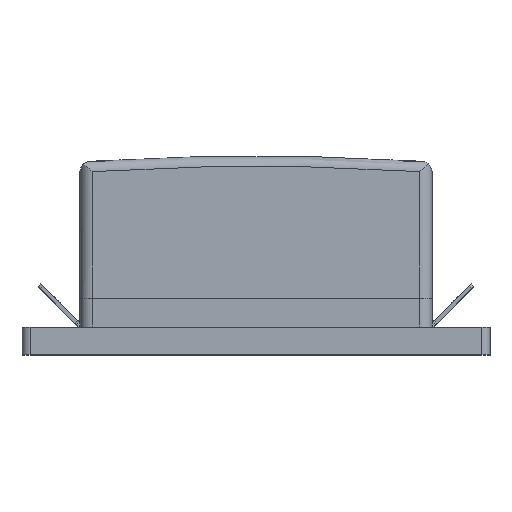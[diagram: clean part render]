
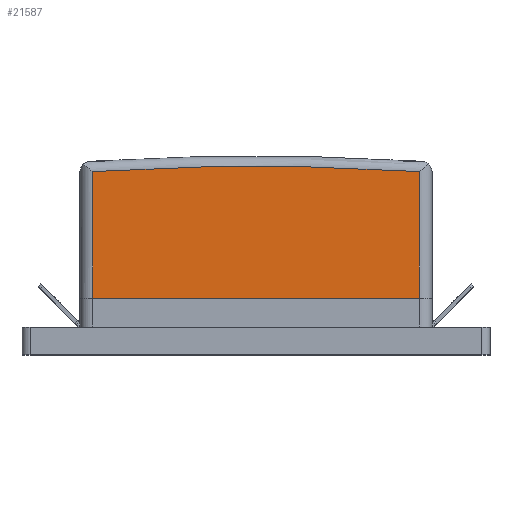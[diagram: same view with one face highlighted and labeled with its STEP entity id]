
A CAD part, top view. The second image highlights one B-rep face of the part: STEP entity #21587.
In plain terms, the highlighted planar face has unit normal (0, 0, 1) as drawn and (0, -1, 0) by its records, which use the part's own axes.
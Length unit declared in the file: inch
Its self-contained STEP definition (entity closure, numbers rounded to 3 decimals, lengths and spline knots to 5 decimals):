
#1565=CIRCLE('',#23074,18.40697);
#2642=FACE_OUTER_BOUND('',#3912,.T.);
#3912=EDGE_LOOP('',(#18814,#18815,#18816,#18817));
#5905=LINE('',#42296,#8071);
#5907=LINE('',#42302,#8073);
#5908=LINE('',#42303,#8074);
#8071=VECTOR('',#27313,0.3937);
#8073=VECTOR('',#27319,0.3937);
#8074=VECTOR('',#27320,0.3937);
#10172=VERTEX_POINT('',#42246);
#10173=VERTEX_POINT('',#42255);
#10178=VERTEX_POINT('',#42295);
#10180=VERTEX_POINT('',#42301);
#13104=EDGE_CURVE('',#10172,#10173,#1565,.T.);
#13111=EDGE_CURVE('',#10178,#10173,#5905,.T.);
#13114=EDGE_CURVE('',#10180,#10172,#5907,.T.);
#13115=EDGE_CURVE('',#10178,#10180,#5908,.T.);
#18814=ORIENTED_EDGE('',*,*,#13104,.F.);
#18815=ORIENTED_EDGE('',*,*,#13114,.F.);
#18816=ORIENTED_EDGE('',*,*,#13115,.F.);
#18817=ORIENTED_EDGE('',*,*,#13111,.T.);
#20443=PLANE('',#23078);
#21587=ADVANCED_FACE('',(#2642),#20443,.T.);
#23074=AXIS2_PLACEMENT_3D('',#42256,#27305,#27306);
#23078=AXIS2_PLACEMENT_3D('',#42300,#27317,#27318);
#27305=DIRECTION('center_axis',(0.,1.,0.));
#27306=DIRECTION('ref_axis',(0.,0.,1.));
#27313=DIRECTION('',(0.,0.,1.));
#27317=DIRECTION('center_axis',(0.,-1.,0.));
#27318=DIRECTION('ref_axis',(1.,0.,0.));
#27319=DIRECTION('',(0.,0.,1.));
#27320=DIRECTION('',(-1.,0.,0.));
#42246=CARTESIAN_POINT('',(-1.17,-1.575,0.48378));
#42255=CARTESIAN_POINT('',(1.17,-1.575,0.48378));
#42256=CARTESIAN_POINT('Origin',(0.,-1.575,-17.88597));
#42295=CARTESIAN_POINT('',(1.17,-1.575,-0.422));
#42296=CARTESIAN_POINT('',(1.17,-1.575,-0.422));
#42300=CARTESIAN_POINT('Origin',(-1.17,-1.575,-0.422));
#42301=CARTESIAN_POINT('',(-1.17,-1.575,-0.422));
#42302=CARTESIAN_POINT('',(-1.17,-1.575,-0.422));
#42303=CARTESIAN_POINT('',(1.17,-1.575,-0.422));
